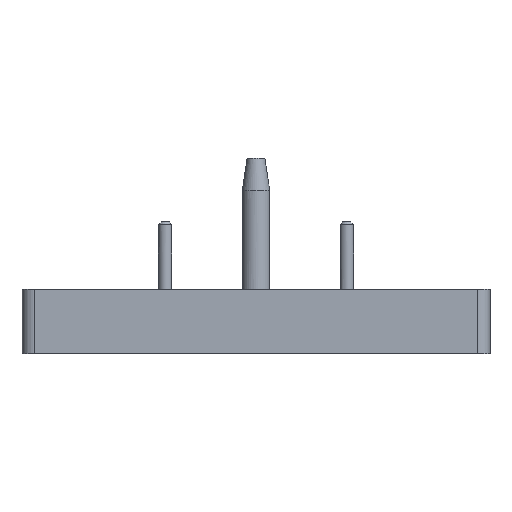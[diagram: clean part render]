
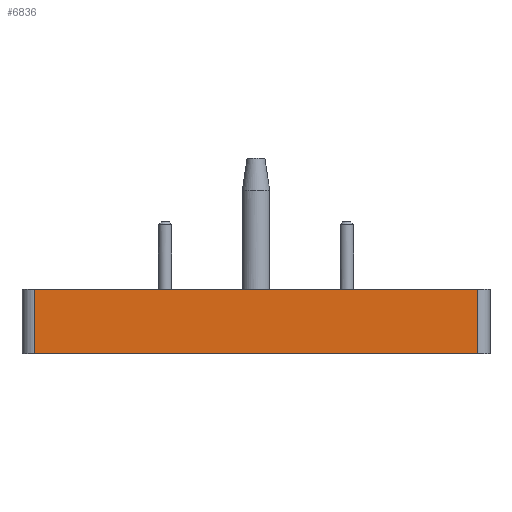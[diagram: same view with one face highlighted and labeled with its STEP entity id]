
A CAD part, front view. The second image highlights one B-rep face of the part: STEP entity #6836.
In plain terms, the highlighted planar face has unit normal (0, -1, 0).
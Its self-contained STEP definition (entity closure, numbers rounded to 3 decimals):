
#101 = CARTESIAN_POINT ( 'NONE',  ( 50.352, -108.871, 0. ) ) ;
#442 = VERTEX_POINT ( 'NONE', #8417 ) ;
#1098 = LINE ( 'NONE', #6542, #8631 ) ;
#1142 = AXIS2_PLACEMENT_3D ( 'NONE', #8901, #8032, #2737 ) ;
#1500 = LINE ( 'NONE', #9711, #10336 ) ;
#1731 = ORIENTED_EDGE ( 'NONE', *, *, #10471, .T. ) ;
#1782 = CARTESIAN_POINT ( 'NONE',  ( -18.048, -108.871, 0. ) ) ;
#2184 = VERTEX_POINT ( 'NONE', #1782 ) ;
#2216 = DIRECTION ( 'NONE',  ( 0., 0., -1. ) ) ;
#2498 = DIRECTION ( 'NONE',  ( -1., 0., 0. ) ) ;
#2599 = EDGE_CURVE ( 'NONE', #8978, #2184, #1500, .T. ) ;
#2737 = DIRECTION ( 'NONE',  ( -1., 0., 0. ) ) ;
#3316 = DIRECTION ( 'NONE',  ( 0., 0., 1. ) ) ;
#4288 = EDGE_CURVE ( 'NONE', #11402, #8978, #1098, .T. ) ;
#4325 = LINE ( 'NONE', #5269, #12194 ) ;
#4761 = PLANE ( 'NONE',  #1142 ) ;
#5269 = CARTESIAN_POINT ( 'NONE',  ( 0., -108.871, -10. ) ) ;
#5709 = ORIENTED_EDGE ( 'NONE', *, *, #2599, .T. ) ;
#6135 = EDGE_CURVE ( 'NONE', #2184, #442, #8838, .T. ) ;
#6542 = CARTESIAN_POINT ( 'NONE',  ( 50.352, -108.871, 0. ) ) ;
#6836 = ADVANCED_FACE ( 'NONE', ( #7511 ), #4761, .F. ) ;
#6998 = ORIENTED_EDGE ( 'NONE', *, *, #4288, .T. ) ;
#7511 = FACE_OUTER_BOUND ( 'NONE', #9594, .T. ) ;
#8032 = DIRECTION ( 'NONE',  ( 0., 1., 0. ) ) ;
#8338 = DIRECTION ( 'NONE',  ( 1., 0., 0. ) ) ;
#8417 = CARTESIAN_POINT ( 'NONE',  ( -18.048, -108.871, -10. ) ) ;
#8588 = ORIENTED_EDGE ( 'NONE', *, *, #6135, .T. ) ;
#8631 = VECTOR ( 'NONE', #3316, 1000. ) ;
#8765 = CARTESIAN_POINT ( 'NONE',  ( 50.352, -108.871, -10. ) ) ;
#8838 = LINE ( 'NONE', #12792, #9640 ) ;
#8901 = CARTESIAN_POINT ( 'NONE',  ( 0., -108.871, 132.315 ) ) ;
#8978 = VERTEX_POINT ( 'NONE', #101 ) ;
#9594 = EDGE_LOOP ( 'NONE', ( #5709, #8588, #1731, #6998 ) ) ;
#9640 = VECTOR ( 'NONE', #2216, 1000. ) ;
#9711 = CARTESIAN_POINT ( 'NONE',  ( 0., -108.871, 0. ) ) ;
#10336 = VECTOR ( 'NONE', #2498, 1000. ) ;
#10471 = EDGE_CURVE ( 'NONE', #442, #11402, #4325, .T. ) ;
#11402 = VERTEX_POINT ( 'NONE', #8765 ) ;
#12194 = VECTOR ( 'NONE', #8338, 1000. ) ;
#12792 = CARTESIAN_POINT ( 'NONE',  ( -18.048, -108.871, 132.315 ) ) ;
